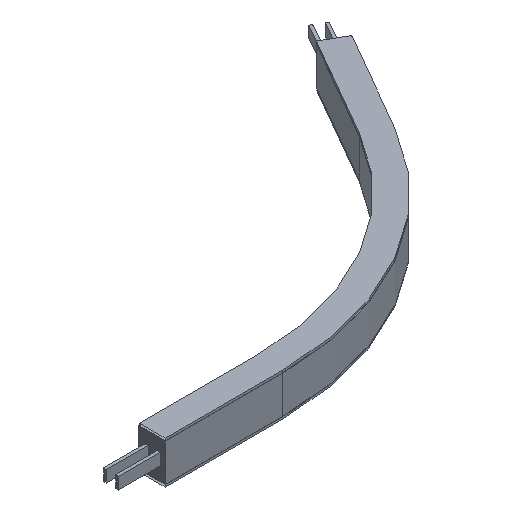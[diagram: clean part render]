
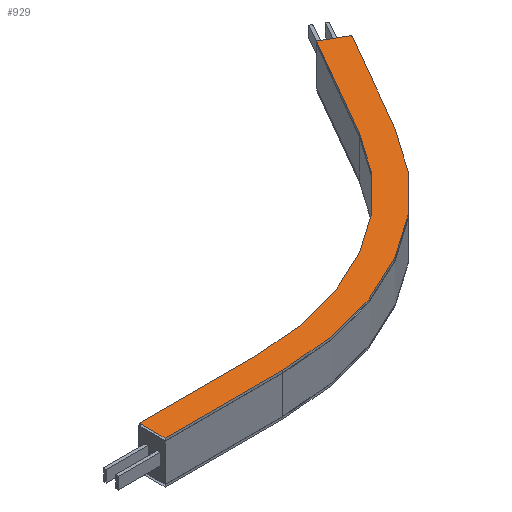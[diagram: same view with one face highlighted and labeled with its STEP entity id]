
A CAD part, isometric view. The second image highlights one B-rep face of the part: STEP entity #929.
In plain terms, the highlighted planar face has unit normal (0, 0, -1).
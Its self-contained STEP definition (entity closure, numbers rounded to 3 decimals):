
#61=CIRCLE('',#1011,478.);
#62=CIRCLE('',#1013,522.);
#119=FACE_OUTER_BOUND('',#171,.T.);
#171=EDGE_LOOP('',(#794,#795,#796,#797,#798,#799,#800,#801));
#253=LINE('',#1463,#363);
#255=LINE('',#1469,#365);
#262=LINE('',#1490,#372);
#267=LINE('',#1499,#377);
#268=LINE('',#1501,#378);
#269=LINE('',#1502,#379);
#363=VECTOR('',#1198,10.);
#365=VECTOR('',#1202,10.);
#372=VECTOR('',#1223,10.);
#377=VECTOR('',#1232,10.);
#378=VECTOR('',#1235,10.);
#379=VECTOR('',#1236,10.);
#453=VERTEX_POINT('',#1457);
#455=VERTEX_POINT('',#1461);
#456=VERTEX_POINT('',#1465);
#458=VERTEX_POINT('',#1468);
#461=VERTEX_POINT('',#1475);
#462=VERTEX_POINT('',#1480);
#464=VERTEX_POINT('',#1486);
#467=VERTEX_POINT('',#1497);
#565=EDGE_CURVE('',#453,#455,#253,.T.);
#567=EDGE_CURVE('',#456,#458,#255,.T.);
#572=EDGE_CURVE('',#461,#453,#61,.T.);
#574=EDGE_CURVE('',#462,#456,#62,.T.);
#578=EDGE_CURVE('',#464,#461,#262,.T.);
#583=EDGE_CURVE('',#467,#462,#267,.T.);
#584=EDGE_CURVE('',#467,#464,#268,.T.);
#585=EDGE_CURVE('',#455,#458,#269,.T.);
#794=ORIENTED_EDGE('',*,*,#584,.T.);
#795=ORIENTED_EDGE('',*,*,#578,.T.);
#796=ORIENTED_EDGE('',*,*,#572,.T.);
#797=ORIENTED_EDGE('',*,*,#565,.T.);
#798=ORIENTED_EDGE('',*,*,#585,.T.);
#799=ORIENTED_EDGE('',*,*,#567,.F.);
#800=ORIENTED_EDGE('',*,*,#574,.F.);
#801=ORIENTED_EDGE('',*,*,#583,.F.);
#879=PLANE('',#1018);
#929=ADVANCED_FACE('',(#119),#879,.F.);
#1011=AXIS2_PLACEMENT_3D('',#1478,#1210,#1211);
#1013=AXIS2_PLACEMENT_3D('',#1483,#1215,#1216);
#1018=AXIS2_PLACEMENT_3D('',#1500,#1233,#1234);
#1198=DIRECTION('',(0.5,0.866,0.));
#1202=DIRECTION('',(0.5,0.866,0.));
#1210=DIRECTION('center_axis',(0.,0.,
1.));
#1211=DIRECTION('ref_axis',(0.,-1.,0.));
#1215=DIRECTION('center_axis',(0.,0.,
1.));
#1216=DIRECTION('ref_axis',(0.,-1.,0.));
#1223=DIRECTION('',(1.,0.,0.));
#1232=DIRECTION('',(1.,0.,0.));
#1233=DIRECTION('center_axis',(0.,0.,1.));
#1234=DIRECTION('ref_axis',(0.,-1.,0.));
#1235=DIRECTION('',(0.,1.,0.));
#1236=DIRECTION('',(0.866,-0.5,0.));
#1457=CARTESIAN_POINT('',(613.96,261.,36.1));
#1461=CARTESIAN_POINT('',(713.96,434.205,36.1));
#1463=CARTESIAN_POINT('',(613.96,261.,36.1));
#1465=CARTESIAN_POINT('',(652.065,239.,36.1));
#1468=CARTESIAN_POINT('',(752.065,412.205,36.1));
#1469=CARTESIAN_POINT('',(652.065,239.,36.1));
#1475=CARTESIAN_POINT('',(200.,22.,36.1));
#1478=CARTESIAN_POINT('Origin',(200.,500.,36.1));
#1480=CARTESIAN_POINT('',(200.,-22.,36.1));
#1483=CARTESIAN_POINT('Origin',(200.,500.,36.1));
#1486=CARTESIAN_POINT('',(0.,22.,36.1));
#1490=CARTESIAN_POINT('',(0.,22.,36.1));
#1497=CARTESIAN_POINT('',(0.,-22.,36.1));
#1499=CARTESIAN_POINT('',(0.,-22.,36.1));
#1500=CARTESIAN_POINT('Origin',(0.,22.,36.1));
#1501=CARTESIAN_POINT('',(0.,-22.,36.1));
#1502=CARTESIAN_POINT('',(752.065,412.205,36.1));
